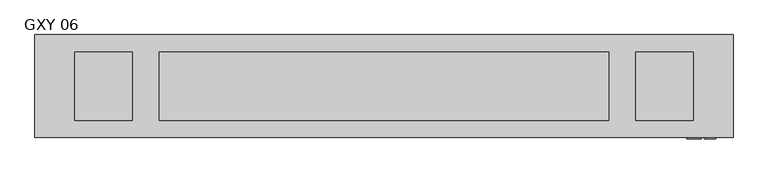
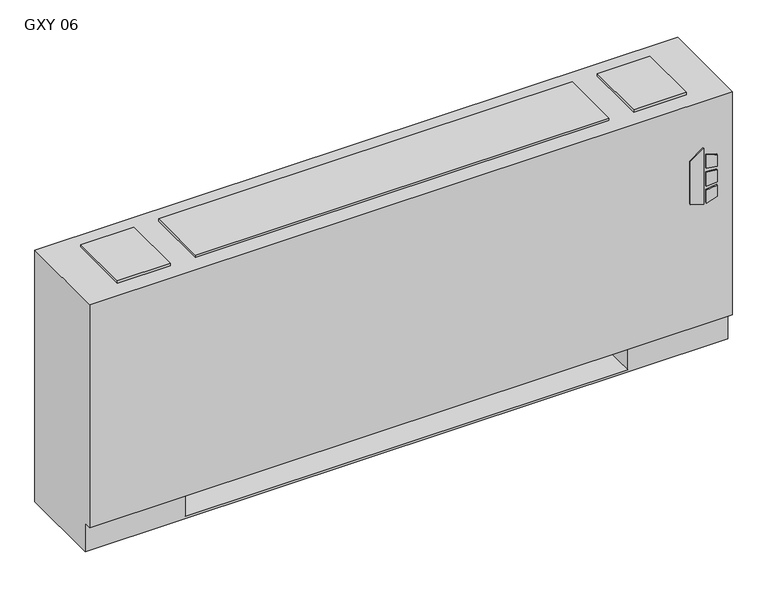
"""IFC4 building model written with IfcOpenShell, lengths in millimetres: proxy geometry, Vertical_Fan_Coil_Unit_-_GXY_-_IEC_-_2-Pipe_TS-FR_RH_2022 : GXY 06."""

from ifc_helpers import new_model, si_unit, point, frame, frame_2d, origin, place, context, project, spatial, polyline, circle_curve, trimmed, segment, composite_curve, outline, extrude, source, transform, mapped, element, save
from ifc_brep_helpers import plane_surface, revolved_surface, advanced_brep


def gxy_06_690fa94a(model_context):
    return source(origin(), model_context, "Body", "SolidModel", [
        extrude(outline(polyline([(391.6086829, 823.9868862), (381.6606126, 856.1602728), (523.831537, 856.1602728), (500.8095309, 823.9868862), (391.6086829, 823.9868862)])), frame((0.0, 12.7, 0.0), z_axis=(0.0, 1.0, 0.0), x_axis=(0.0, 0.0, 1.0)), (0.0, 0.0, 1.0), 3.175),
        extrude(outline(polyline([(470.6079683, 862.9186058), (467.4055757, 889.0), (496.6344168, 889.0), (504.6988318, 862.9186058), (470.6079683, 862.9186058)])), frame((0.0, 12.7, 0.0), z_axis=(0.0, 1.0, 0.0), x_axis=(0.0, 0.0, 1.0)), (0.0, 0.0, 1.0), 3.175),
        extrude(outline(polyline([(418.7444414, 889.0), (415.0789404, 862.9186058), (381.6606126, 862.9186058), (390.2948498, 889.0), (418.7444414, 889.0)])), frame((0.0, 12.7, 0.0), z_axis=(0.0, 1.0, 0.0), x_axis=(0.0, 0.0, 1.0)), (0.0, 0.0, 1.0), 3.175),
        extrude(outline(polyline([(458.0596028, 889.0), (460.3414292, 862.9186058), (424.4038806, 862.9186058), (427.1451456, 889.0), (458.0596028, 889.0)])), frame((0.0, 12.7, 0.0), z_axis=(0.0, 1.0, 0.0), x_axis=(0.0, 0.0, 1.0)), (0.0, 0.0, 1.0), 3.175),
        extrude(outline(polyline([(-501.65, 81.534), (-501.65, 223.266), (-127.0, 223.266), (-127.0, 81.534), (-501.65, 81.534)])), frame((0.0, 0.0, 327.025), z_axis=(0.0, 0.0, 1.0), x_axis=(1.0, 0.0, 0.0)), (0.0, 0.0, 1.0), 260.35),
        extrude(outline(polyline([(-406.4, 206.375), (-406.4, 53.975), (-533.4, 53.975), (-533.4, 206.375), (-406.4, 206.375)])), frame((0.0, 0.0, 641.35), z_axis=(0.0, 0.0, 1.0), x_axis=(1.0, 0.0, 0.0)), (0.0, 0.0, 1.0), 6.35),
        extrude(outline(polyline([(838.2, 206.375), (838.2, 53.975), (711.2, 53.975), (711.2, 206.375), (838.2, 206.375)])), frame((0.0, 0.0, 641.35), z_axis=(0.0, 0.0, 1.0), x_axis=(1.0, 0.0, 0.0)), (0.0, 0.0, 1.0), 6.35),
        extrude(outline(composite_curve([segment(trimmed(circle_curve(frame_2d((78.9432, 398.5514)), 7.9375), [point((78.9432, 406.4889))], [point((78.9432, 390.6139))], False, "CARTESIAN"), True, "CONTINUOUS"), segment(trimmed(circle_curve(frame_2d((78.9432, 398.5514)), 7.9375), [point((78.9432, 390.6139))], [point((78.9432, 406.4889))], False, "CARTESIAN"), True, "CONTINUOUS")], self_intersect=False)), frame((685.8, 0.0, 0.0), z_axis=(1.0, 0.0, 0.0), x_axis=(0.0, 1.0, 0.0)), (0.0, 0.0, 1.0), 50.8),
        extrude(outline(composite_curve([segment(trimmed(circle_curve(frame_2d((155.9052, 537.3878)), 7.9375), [point((155.9052, 545.3253))], [point((155.9052, 529.4503))], False, "CARTESIAN"), True, "CONTINUOUS"), segment(trimmed(circle_curve(frame_2d((155.9052, 537.3878)), 7.9375), [point((155.9052, 529.4503))], [point((155.9052, 545.3253))], False, "CARTESIAN"), True, "CONTINUOUS")], self_intersect=False)), frame((685.8, 0.0, 0.0), z_axis=(1.0, 0.0, 0.0), x_axis=(0.0, 1.0, 0.0)), (0.0, 0.0, 1.0), 50.8),
        advanced_brep(
        [(927.1, 244.475, 641.35), (-622.3, 244.475, 641.35), (-622.3, 15.875, 641.35), (927.1, 15.875, 641.35), (-622.3, 244.475, 0.0), (927.1, 244.475, 0.0), (927.1, 34.925, 0.0), (-622.3, 34.925, 0.0), (685.8, 244.475, 73.025), (914.4, 244.475, 73.025), (914.4, 244.475, 628.65), (685.8, 244.475, 628.65), (685.8, 244.475, 418.0400565), (714.375, 244.475, 418.0400565), (714.375, 244.475, 388.4099435), (685.8, 244.475, 388.4099435), (685.8, 244.475, 290.5125), (714.375, 244.475, 290.5125), (714.375, 244.475, 261.9375), (685.8, 244.475, 261.9375), (685.8, 244.475, 119.0625), (714.375, 244.475, 119.0625), (714.375, 244.475, 90.4875), (685.8, 244.475, 90.4875), (-381.0, 244.475, 628.65), (-609.6, 244.475, 628.65), (-609.6, 244.475, 73.025), (-381.0, 244.475, 73.025), (-381.0, 244.475, 90.4875), (-409.575, 244.475, 90.4875), (-409.575, 244.475, 119.0625), (-381.0, 244.475, 119.0625), (-381.0, 244.475, 261.9375), (-409.575, 244.475, 261.9375), (-409.575, 244.475, 290.5125), (-381.0, 244.475, 290.5125), (-381.0, 244.475, 388.4099435), (-409.575, 244.475, 388.4099435), (-409.575, 244.475, 418.0400565), (-381.0, 244.475, 418.0400565), (704.0626, 244.475, 104.775), (692.9374, 244.475, 104.775), (704.0626, 244.475, 403.225), (692.9374, 244.475, 403.225), (704.0626, 244.475, 276.225), (692.9374, 244.475, 276.225), (-388.1374, 244.475, 104.775), (-399.2626, 244.475, 104.775), (-388.1374, 244.475, 276.225), (-399.2626, 244.475, 276.225), (-388.1374, 244.475, 403.225), (-399.2626, 244.475, 403.225), (-622.3, 34.925, 73.025), (-622.3, 15.875, 73.025), (927.1, 15.875, 73.025), (927.1, 34.925, 73.025), (-381.0, 34.925, 73.025), (-381.0, 219.075, 73.025), (685.8, 219.075, 73.025), (685.8, 34.925, 73.025), (685.8, 34.925, 6.35), (-381.0, 34.925, 6.35), (685.8, 41.275, 628.65), (914.4, 41.275, 628.65), (914.4, 41.275, 73.025), (685.8, 41.275, 73.025), (-381.0, 41.275, 628.65), (-381.0, 41.275, 73.025), (-609.6, 41.275, 73.025), (-609.6, 41.275, 628.65), (685.8, 219.075, 73.025), (685.8, 238.125, 90.4875), (685.8, 238.125, 119.0625), (685.8, 238.125, 261.9375), (685.8, 238.125, 290.5125), (685.8, 238.125, 388.4099435), (685.8, 238.125, 418.0400565), (-381.0, 219.075, 73.025), (-381.0, 238.125, 418.0400565), (-381.0, 238.125, 388.4099435), (-381.0, 238.125, 290.5125), (-381.0, 238.125, 261.9375), (-381.0, 238.125, 119.0625), (-381.0, 238.125, 90.4875), (-381.0, 219.075, 6.35), (685.8, 219.075, 6.35), (714.375, 238.125, 90.4875), (714.375, 238.125, 119.0625), (692.9374, 238.125, 104.775), (704.0626, 238.125, 104.775), (714.375, 238.125, 261.9375), (714.375, 238.125, 290.5125), (692.9374, 238.125, 276.225), (704.0626, 238.125, 276.225), (714.375, 238.125, 388.4099435), (714.375, 238.125, 418.0400565), (692.9374, 238.125, 403.225), (704.0626, 238.125, 403.225), (-409.575, 238.125, 119.0625), (-409.575, 238.125, 90.4875), (-399.2626, 238.125, 104.775), (-388.1374, 238.125, 104.775), (-409.575, 238.125, 290.5125), (-409.575, 238.125, 261.9375), (-399.2626, 238.125, 276.225), (-388.1374, 238.125, 276.225), (-409.575, 238.125, 418.0400565), (-409.575, 238.125, 388.4099435), (-399.2626, 238.125, 403.225), (-388.1374, 238.125, 403.225)],
        [
            (0, 1),
            (1, 2),
            (2, 3),
            (3, 0),
            (4, 5),
            (5, 6),
            (6, 7),
            (7, 4),
            (0, 5),
            (4, 1),
            (8, 9),
            (9, 10),
            (10, 11),
            (11, 12),
            (12, 13),
            (13, 14),
            (14, 15),
            (15, 16),
            (16, 17),
            (17, 18),
            (18, 19),
            (19, 20),
            (20, 21),
            (21, 22),
            (22, 23),
            (23, 8),
            (24, 25),
            (25, 26),
            (26, 27),
            (27, 28),
            (28, 29),
            (29, 30),
            (30, 31),
            (31, 32),
            (32, 33),
            (33, 34),
            (34, 35),
            (35, 36),
            (36, 37),
            (37, 38),
            (38, 39),
            (39, 24),
            (40, 41, circle_curve(frame((698.5, 244.475, 104.775), z_axis=(0.0, -1.0, 0.0), x_axis=(-1.0, 0.0, 0.0)), 5.5626)),
            (41, 40, circle_curve(frame((698.5, 244.475, 104.775), z_axis=(0.0, -1.0, 0.0), x_axis=(-1.0, 0.0, 0.0)), 5.5626)),
            (42, 43, circle_curve(frame((698.5, 244.475, 403.225), z_axis=(0.0, -1.0, 0.0), x_axis=(-1.0, 0.0, 0.0)), 5.5626)),
            (43, 42, circle_curve(frame((698.5, 244.475, 403.225), z_axis=(0.0, -1.0, 0.0), x_axis=(-1.0, 0.0, 0.0)), 5.5626)),
            (44, 45, circle_curve(frame((698.5, 244.475, 276.225), z_axis=(0.0, -1.0, 0.0), x_axis=(-1.0, 0.0, 0.0)), 5.5626)),
            (45, 44, circle_curve(frame((698.5, 244.475, 276.225), z_axis=(0.0, -1.0, 0.0), x_axis=(-1.0, 0.0, 0.0)), 5.5626)),
            (46, 47, circle_curve(frame((-393.7, 244.475, 104.775), z_axis=(0.0, -1.0, 0.0), x_axis=(-1.0, 0.0, 0.0)), 5.5626)),
            (47, 46, circle_curve(frame((-393.7, 244.475, 104.775), z_axis=(0.0, -1.0, 0.0), x_axis=(-1.0, 0.0, 0.0)), 5.5626)),
            (48, 49, circle_curve(frame((-393.7, 244.475, 276.225), z_axis=(0.0, -1.0, 0.0), x_axis=(-1.0, 0.0, 0.0)), 5.5626)),
            (49, 48, circle_curve(frame((-393.7, 244.475, 276.225), z_axis=(0.0, -1.0, 0.0), x_axis=(-1.0, 0.0, 0.0)), 5.5626)),
            (50, 51, circle_curve(frame((-393.7, 244.475, 403.225), z_axis=(0.0, -1.0, 0.0), x_axis=(-1.0, 0.0, 0.0)), 5.5626)),
            (51, 50, circle_curve(frame((-393.7, 244.475, 403.225), z_axis=(0.0, -1.0, 0.0), x_axis=(-1.0, 0.0, 0.0)), 5.5626)),
            (7, 52),
            (52, 53),
            (53, 2),
            (53, 54),
            (54, 3),
            (54, 55),
            (55, 6),
            (52, 56),
            (56, 57),
            (57, 58),
            (58, 59),
            (59, 55),
            (59, 60),
            (60, 61),
            (61, 56),
            (62, 63),
            (63, 64),
            (64, 65),
            (65, 62),
            (66, 67),
            (67, 68),
            (68, 69),
            (69, 66),
            (65, 70),
            (70, 8),
            (23, 71),
            (71, 72),
            (72, 20),
            (19, 73),
            (73, 74),
            (74, 16),
            (15, 75),
            (75, 76),
            (76, 12),
            (11, 62),
            (64, 9),
            (63, 10),
            (69, 25),
            (24, 66),
            (68, 26),
            (67, 77),
            (77, 27),
            (39, 78),
            (78, 79),
            (79, 36),
            (35, 80),
            (80, 81),
            (81, 32),
            (31, 82),
            (82, 83),
            (83, 28),
            (57, 84),
            (84, 85),
            (85, 58),
            (85, 60),
            (84, 61),
            (71, 86),
            (86, 87),
            (87, 72),
            (88, 89, circle_curve(frame((698.5, 238.125, 104.775), z_axis=(0.0, 1.0, 0.0), x_axis=(-1.0, 0.0, 0.0)), 5.5626)),
            (89, 88, circle_curve(frame((698.5, 238.125, 104.775), z_axis=(0.0, 1.0, 0.0), x_axis=(-1.0, 0.0, 0.0)), 5.5626)),
            (73, 90),
            (90, 91),
            (91, 74),
            (92, 93, circle_curve(frame((698.5, 238.125, 276.225), z_axis=(0.0, 1.0, 0.0), x_axis=(-1.0, 0.0, 0.0)), 5.5626)),
            (93, 92, circle_curve(frame((698.5, 238.125, 276.225), z_axis=(0.0, 1.0, 0.0), x_axis=(-1.0, 0.0, 0.0)), 5.5626)),
            (75, 94),
            (94, 95),
            (95, 76),
            (96, 97, circle_curve(frame((698.5, 238.125, 403.225), z_axis=(0.0, 1.0, 0.0), x_axis=(-1.0, 0.0, 0.0)), 5.5626)),
            (97, 96, circle_curve(frame((698.5, 238.125, 403.225), z_axis=(0.0, 1.0, 0.0), x_axis=(-1.0, 0.0, 0.0)), 5.5626)),
            (98, 99),
            (99, 83),
            (82, 98),
            (100, 101, circle_curve(frame((-393.7, 238.125, 104.775), z_axis=(0.0, 1.0, 0.0), x_axis=(-1.0, 0.0, 0.0)), 5.5626)),
            (101, 100, circle_curve(frame((-393.7, 238.125, 104.775), z_axis=(0.0, 1.0, 0.0), x_axis=(-1.0, 0.0, 0.0)), 5.5626)),
            (102, 103),
            (103, 81),
            (80, 102),
            (104, 105, circle_curve(frame((-393.7, 238.125, 276.225), z_axis=(0.0, 1.0, 0.0), x_axis=(-1.0, 0.0, 0.0)), 5.5626)),
            (105, 104, circle_curve(frame((-393.7, 238.125, 276.225), z_axis=(0.0, 1.0, 0.0), x_axis=(-1.0, 0.0, 0.0)), 5.5626)),
            (106, 107),
            (107, 79),
            (78, 106),
            (108, 109, circle_curve(frame((-393.7, 238.125, 403.225), z_axis=(0.0, 1.0, 0.0), x_axis=(-1.0, 0.0, 0.0)), 5.5626)),
            (109, 108, circle_curve(frame((-393.7, 238.125, 403.225), z_axis=(0.0, 1.0, 0.0), x_axis=(-1.0, 0.0, 0.0)), 5.5626)),
            (87, 21),
            (86, 22),
            (91, 17),
            (90, 18),
            (95, 13),
            (94, 14),
            (30, 98),
            (99, 29),
            (34, 102),
            (103, 33),
            (38, 106),
            (107, 37),
            (88, 41),
            (40, 89),
            (96, 43),
            (42, 97),
            (92, 45),
            (44, 93),
            (100, 47),
            (46, 101),
            (104, 49),
            (48, 105),
            (108, 51),
            (50, 109),
        ],
        [
            plane_surface(frame((-622.3, 244.475, 641.35), z_axis=(0.0, 0.0, 1.0), x_axis=(-1.0, 0.0, 0.0))),
            plane_surface(frame((-622.3, 244.475, 0.0), z_axis=(0.0, 0.0, -1.0), x_axis=(1.0, 0.0, 0.0))),
            plane_surface(frame((927.1, 244.475, 641.35), z_axis=(0.0, 1.0, 0.0), x_axis=(0.0, 0.0, -1.0))),
            plane_surface(frame((-622.3, 244.475, 641.35), z_axis=(-1.0, 0.0, 0.0), x_axis=(0.0, 0.0, -1.0))),
            plane_surface(frame((-622.3, 15.875, 641.35), z_axis=(0.0, -1.0, 0.0), x_axis=(0.0, 0.0, -1.0))),
            plane_surface(frame((927.1, 15.875, 641.35), z_axis=(1.0, 0.0, 0.0), x_axis=(0.0, 0.0, -1.0))),
            plane_surface(frame((-622.3, 15.875, 73.025), z_axis=(0.0, 0.0, -1.0), x_axis=(1.0, 0.0, 0.0))),
            plane_surface(frame((-622.3, 34.925, 73.025), z_axis=(0.0, -1.0, 0.0), x_axis=(1.0, 0.0, 0.0))),
            plane_surface(frame((685.8, 41.275, 628.65), z_axis=(0.0, 1.0, 0.0), x_axis=(0.0, 0.0, -1.0))),
            plane_surface(frame((685.8, 41.275, 628.65), z_axis=(1.0, 0.0, 0.0), x_axis=(0.0, 1.0, 0.0))),
            plane_surface(frame((685.8, 41.275, 73.025), z_axis=(0.0, 0.0, 1.0), x_axis=(0.0, 1.0, 0.0))),
            plane_surface(frame((914.4, 41.275, 73.025), z_axis=(-1.0, 0.0, 0.0), x_axis=(0.0, 1.0, 0.0))),
            plane_surface(frame((914.4, 41.275, 628.65), z_axis=(0.0, 0.0, -1.0), x_axis=(0.0, 1.0, 0.0))),
            plane_surface(frame((-381.0, 41.275, 628.65), z_axis=(0.0, 0.0, -1.0), x_axis=(0.0, 1.0, 0.0))),
            plane_surface(frame((-609.6, 41.275, 628.65), z_axis=(1.0, 0.0, 0.0), x_axis=(0.0, 1.0, 0.0))),
            plane_surface(frame((-609.6, 41.275, 73.025), z_axis=(0.0, 0.0, 1.0), x_axis=(0.0, 1.0, 0.0))),
            plane_surface(frame((-381.0, 41.275, 73.025), z_axis=(-1.0, 0.0, 0.0), x_axis=(0.0, 1.0, 0.0))),
            plane_surface(frame((685.8, 219.075, 73.025), z_axis=(0.0, -1.0, 0.0), x_axis=(0.0, 0.0, -1.0))),
            plane_surface(frame((685.8, 219.075, 73.025), z_axis=(-1.0, 0.0, 0.0), x_axis=(0.0, -1.0, 0.0))),
            plane_surface(frame((685.8, 219.075, 6.35), z_axis=(0.0, 0.0, 1.0), x_axis=(0.0, -1.0, 0.0))),
            plane_surface(frame((-381.0, 219.075, 6.35), z_axis=(1.0, 0.0, 0.0), x_axis=(0.0, -1.0, 0.0))),
            plane_surface(frame((714.375, 238.125, 119.0625), z_axis=(0.0, -1.0, 0.0), x_axis=(-1.0, 0.0, 0.0))),
            plane_surface(frame((685.8, 244.475, 119.0625), z_axis=(0.0, 0.0, 1.0), x_axis=(0.0, -1.0, 0.0))),
            plane_surface(frame((714.375, 244.475, 119.0625), z_axis=(1.0, 0.0, 0.0), x_axis=(0.0, -1.0, 0.0))),
            plane_surface(frame((714.375, 244.475, 90.4875), z_axis=(0.0, 0.0, -1.0), x_axis=(0.0, -1.0, 0.0))),
            plane_surface(frame((685.8, 244.475, 290.5125), z_axis=(0.0, 0.0, 1.0), x_axis=(0.0, -1.0, 0.0))),
            plane_surface(frame((714.375, 244.475, 290.5125), z_axis=(1.0, 0.0, 0.0), x_axis=(0.0, -1.0, 0.0))),
            plane_surface(frame((714.375, 244.475, 261.9375), z_axis=(0.0, 0.0, -1.0), x_axis=(0.0, -1.0, 0.0))),
            plane_surface(frame((685.8, 244.475, 418.0400565), z_axis=(0.0, 0.0, 1.0), x_axis=(0.0, -1.0, 0.0))),
            plane_surface(frame((714.375, 244.475, 418.0400565), z_axis=(1.0, 0.0, 0.0), x_axis=(0.0, -1.0, 0.0))),
            plane_surface(frame((714.375, 244.475, 388.4099435), z_axis=(0.0, 0.0, -1.0), x_axis=(0.0, -1.0, 0.0))),
            plane_surface(frame((-409.575, 244.475, 119.0625), z_axis=(0.0, 0.0, 1.0), x_axis=(0.0, -1.0, 0.0))),
            plane_surface(frame((-381.0, 244.475, 90.4875), z_axis=(0.0, 0.0, -1.0), x_axis=(0.0, -1.0, 0.0))),
            plane_surface(frame((-409.575, 244.475, 90.4875), z_axis=(-1.0, 0.0, 0.0), x_axis=(0.0, -1.0, 0.0))),
            plane_surface(frame((-409.575, 244.475, 290.5125), z_axis=(0.0, 0.0, 1.0), x_axis=(0.0, -1.0, 0.0))),
            plane_surface(frame((-381.0, 244.475, 261.9375), z_axis=(0.0, 0.0, -1.0), x_axis=(0.0, -1.0, 0.0))),
            plane_surface(frame((-409.575, 244.475, 261.9375), z_axis=(-1.0, 0.0, 0.0), x_axis=(0.0, -1.0, 0.0))),
            plane_surface(frame((-409.575, 244.475, 418.0400565), z_axis=(0.0, 0.0, 1.0), x_axis=(0.0, -1.0, 0.0))),
            plane_surface(frame((-381.0, 244.475, 388.4099435), z_axis=(0.0, 0.0, -1.0), x_axis=(0.0, -1.0, 0.0))),
            plane_surface(frame((-409.575, 244.475, 388.4099435), z_axis=(-1.0, 0.0, 0.0), x_axis=(0.0, -1.0, 0.0))),
            revolved_surface(polyline([(692.9374, 238.125, 104.775), (692.9374, 244.475, 104.775)]), (698.5, 244.475, 104.775), (0.0, -1.0, 0.0)),
            revolved_surface(polyline([(692.9374, 238.125, 403.225), (692.9374, 244.475, 403.225)]), (698.5, 244.475, 403.225), (0.0, -1.0, 0.0)),
            revolved_surface(polyline([(692.9374, 238.125, 276.225), (692.9374, 244.475, 276.225)]), (698.5, 244.475, 276.225), (0.0, -1.0, 0.0)),
            revolved_surface(polyline([(-399.26259999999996, 238.125, 104.775), (-399.26259999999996, 244.475, 104.775)]), (-393.7, 244.475, 104.775), (0.0, -1.0, 0.0)),
            revolved_surface(polyline([(-399.26259999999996, 238.125, 276.225), (-399.26259999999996, 244.475, 276.225)]), (-393.7, 244.475, 276.225), (0.0, -1.0, 0.0)),
            revolved_surface(polyline([(-399.26259999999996, 238.125, 403.225), (-399.26259999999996, 244.475, 403.225)]), (-393.7, 244.475, 403.225), (0.0, -1.0, 0.0)),
        ],
        [
            (0, [[1, 2, 3, 4]]),
            (1, [[5, 6, 7, 8]]),
            (2, [[-1, 9, -5, 10], [11, 12, 13, 14, 15, 16, 17, 18, 19, 20, 21, 22, 23, 24, 25, 26], [27, 28, 29, 30, 31, 32, 33, 34, 35, 36, 37, 38, 39, 40, 41, 42], [43, 44], [45, 46], [47, 48], [49, 50], [51, 52], [53, 54]]),
            (3, [[-2, -10, -8, 55, 56, 57]]),
            (4, [[-3, -57, 58, 59]]),
            (5, [[-4, -59, 60, 61, -6, -9]]),
            (6, [[-56, 62, 63, 64, 65, 66, -60, -58]]),
            (7, [[-7, -61, -66, 67, 68, 69, -62, -55]]),
            (8, [[70, 71, 72, 73]]),
            (8, [[74, 75, 76, 77]]),
            (9, [[-73, 78, 79, -26, 80, 81, 82, -22, 83, 84, 85, -18, 86, 87, 88, -14, 89]]),
            (10, [[-72, 90, -11, -79, -78]]),
            (11, [[-71, 91, -12, -90]]),
            (12, [[-70, -89, -13, -91]]),
            (13, [[-77, 92, -27, 93]]),
            (14, [[-76, 94, -28, -92]]),
            (15, [[-75, 95, 96, -29, -94]]),
            (16, [[-74, -93, -42, 97, 98, 99, -38, 100, 101, 102, -34, 103, 104, 105, -30, -96, -95]]),
            (17, [[-64, 106, 107, 108]]),
            (18, [[-108, 109, -67, -65]]),
            (19, [[-107, 110, -68, -109]]),
            (20, [[-106, -63, -69, -110]]),
            (21, [[111, 112, 113, -81], [114, 115]]),
            (21, [[116, 117, 118, -84], [119, 120]]),
            (21, [[121, 122, 123, -87], [124, 125]]),
            (21, [[126, 127, -104, 128], [129, 130]]),
            (21, [[131, 132, -101, 133], [134, 135]]),
            (21, [[136, 137, -98, 138], [139, 140]]),
            (22, [[-113, 141, -23, -82]]),
            (23, [[-112, 142, -24, -141]]),
            (24, [[-111, -80, -25, -142]]),
            (25, [[-118, 143, -19, -85]]),
            (26, [[-117, 144, -20, -143]]),
            (27, [[-116, -83, -21, -144]]),
            (28, [[-123, 145, -15, -88]]),
            (29, [[-122, 146, -16, -145]]),
            (30, [[-121, -86, -17, -146]]),
            (31, [[-128, -103, -33, 147]]),
            (32, [[-127, 148, -31, -105]]),
            (33, [[-126, -147, -32, -148]]),
            (34, [[-133, -100, -37, 149]]),
            (35, [[-132, 150, -35, -102]]),
            (36, [[-131, -149, -36, -150]]),
            (37, [[-138, -97, -41, 151]]),
            (38, [[-137, 152, -39, -99]]),
            (39, [[-136, -151, -40, -152]]),
            (40, [[153, -43, 154, -114]]),
            (40, [[-153, -115, -154, -44]]),
            (41, [[155, -45, 156, -124]]),
            (41, [[-155, -125, -156, -46]]),
            (42, [[157, -47, 158, -119]]),
            (42, [[-157, -120, -158, -48]]),
            (43, [[159, -49, 160, -129]]),
            (43, [[-159, -130, -160, -50]]),
            (44, [[161, -51, 162, -134]]),
            (44, [[-161, -135, -162, -52]]),
            (45, [[163, -53, 164, -139]]),
            (45, [[-163, -140, -164, -54]]),
        ],
    ),
        extrude(outline(polyline([(650.875, 206.375), (650.875, 53.975), (-346.075, 53.975), (-346.075, 206.375), (650.875, 206.375)])), frame((0.0, 0.0, 641.35), z_axis=(0.0, 0.0, 1.0), x_axis=(1.0, 0.0, 0.0)), (0.0, 0.0, 1.0), 6.35),
    ])


if __name__ == "__main__":
    model = new_model("IFC4")
    model_context = context("Model", 3, world=origin())
    ifc_project = project(units=[si_unit("LENGTHUNIT", "METRE", prefix="MILLI")], contexts=[model_context])
    site = spatial("IfcSite", under=ifc_project)
    building = spatial("IfcBuilding", under=site)
    placement = place(None, origin())
    gxy_06_shape = gxy_06_690fa94a(model_context)
    element("IfcBuildingElementProxy", 1, Name="Vertical_Fan_Coil_Unit_-_GXY_-_IEC_-_2-Pipe_TS-FR_RH_2022 : GXY 06", ObjectType="Vertical_Fan_Coil_Unit_-_GXY_-_IEC_-_2-Pipe_TS-FR_RH_2022 : GXY 06", at=placement, inside=building, context=model_context, shape_type="MappedRepresentation", body=[
        mapped(gxy_06_shape, transform((0.0, 0.0, 0.0), x_axis=(1.0, 0.0, 0.0), y_axis=(0.0, 1.0, 0.0), z_axis=(0.0, 0.0, 1.0))),
    ])
    save(model, "model.ifc")
